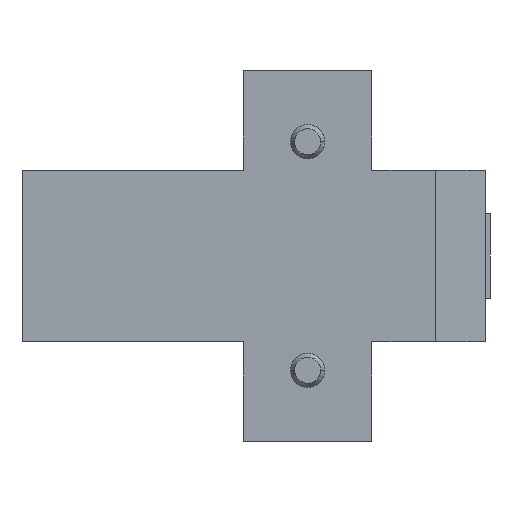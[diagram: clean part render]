
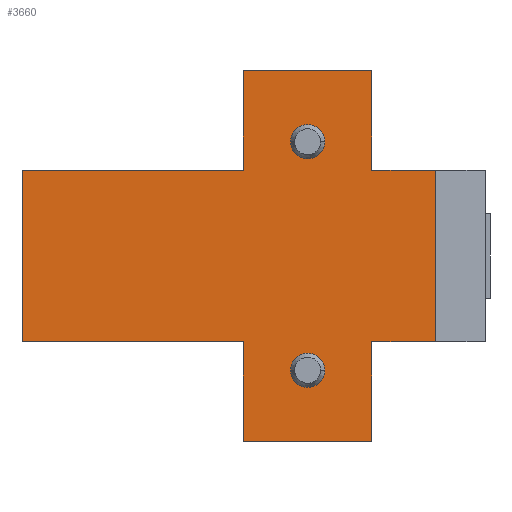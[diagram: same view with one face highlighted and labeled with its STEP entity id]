
A CAD part, left-side view. The second image highlights one B-rep face of the part: STEP entity #3660.
In plain terms, the highlighted planar face has unit normal (-1, 0, 0).
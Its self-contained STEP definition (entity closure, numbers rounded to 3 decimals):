
#523 = EDGE_LOOP ( 'NONE', ( #2964, #2965 ) ) ;
#526 = EDGE_LOOP ( 'NONE', ( #2979, #2980 ) ) ;
#529 = EDGE_LOOP ( 'NONE', ( #2966, #2968, #2969, #2970, #2971, #2972, #2973, #2974, #2975, #2976, #2977, #2978 ) ) ;
#707 = CIRCLE ( 'NONE', #3313, 2.4 ) ;
#714 = VECTOR ( 'NONE', #2281, 1000. ) ;
#715 = LINE ( 'NONE', #2284, #714 ) ;
#716 = VECTOR ( 'NONE', #2276, 1000. ) ;
#717 = LINE ( 'NONE', #2774, #716 ) ;
#719 = VECTOR ( 'NONE', #2777, 1000. ) ;
#721 = VECTOR ( 'NONE', #2775, 1000. ) ;
#722 = VECTOR ( 'NONE', #2306, 1000. ) ;
#723 = LINE ( 'NONE', #2316, #722 ) ;
#724 = VECTOR ( 'NONE', #2376, 1000. ) ;
#725 = LINE ( 'NONE', #2373, #724 ) ;
#726 = VECTOR ( 'NONE', #2366, 1000. ) ;
#727 = LINE ( 'NONE', #2360, #726 ) ;
#728 = CIRCLE ( 'NONE', #3318, 2.4 ) ;
#729 = LINE ( 'NONE', #2324, #721 ) ;
#730 = LINE ( 'NONE', #2298, #719 ) ;
#731 = LINE ( 'NONE', #2352, #733 ) ;
#732 = VECTOR ( 'NONE', #2327, 1000. ) ;
#733 = VECTOR ( 'NONE', #2356, 1000. ) ;
#734 = VECTOR ( 'NONE', #2318, 1000. ) ;
#736 = LINE ( 'NONE', #2455, #734 ) ;
#738 = LINE ( 'NONE', #2405, #732 ) ;
#740 = VECTOR ( 'NONE', #2429, 1000. ) ;
#741 = LINE ( 'NONE', #2453, #740 ) ;
#753 = VECTOR ( 'NONE', #2494, 1000. ) ;
#759 = LINE ( 'NONE', #2749, #753 ) ;
#787 = CIRCLE ( 'NONE', #3154, 2.4 ) ;
#902 = EDGE_CURVE ( 'NONE', #1951, #1952, #787, .T. ) ;
#924 = EDGE_CURVE ( 'NONE', #1985, #1984, #759, .T. ) ;
#931 = EDGE_CURVE ( 'NONE', #1983, #1984, #741, .T. ) ;
#935 = EDGE_CURVE ( 'NONE', #1987, #1982, #736, .T. ) ;
#936 = EDGE_CURVE ( 'NONE', #1982, #1983, #738, .T. ) ;
#937 = EDGE_CURVE ( 'NONE', #1952, #1951, #728, .T. ) ;
#938 = EDGE_CURVE ( 'NONE', #1985, #1986, #731, .T. ) ;
#939 = EDGE_CURVE ( 'NONE', #1988, #1987, #727, .T. ) ;
#940 = EDGE_CURVE ( 'NONE', #1988, #1991, #725, .T. ) ;
#941 = EDGE_CURVE ( 'NONE', #1850, #1991, #723, .T. ) ;
#942 = EDGE_CURVE ( 'NONE', #1847, #1850, #729, .T. ) ;
#943 = EDGE_CURVE ( 'NONE', #1847, #1849, #730, .T. ) ;
#944 = EDGE_CURVE ( 'NONE', #1849, #1989, #717, .T. ) ;
#945 = EDGE_CURVE ( 'NONE', #1989, #1986, #715, .T. ) ;
#947 = EDGE_CURVE ( 'NONE', #1965, #1967, #707, .T. ) ;
#1090 = PLANE ( 'NONE',  #3360 ) ;
#1091 = CARTESIAN_POINT ( 'NONE',  ( 0., -12.007, -12. ) ) ;
#1092 = DIRECTION ( 'NONE',  ( 1., 0., 0. ) ) ;
#1093 = DIRECTION ( 'NONE',  ( 0., -1., 0. ) ) ;
#1491 = DIRECTION ( 'NONE',  ( 0., -1., 0. ) ) ;
#1492 = DIRECTION ( 'NONE',  ( -1., 0., 0. ) ) ;
#1497 = CARTESIAN_POINT ( 'NONE',  ( 0., 0., 16. ) ) ;
#1801 = FACE_OUTER_BOUND ( 'NONE', #529, .T. ) ;
#1847 = VERTEX_POINT ( 'NONE', #2662 ) ;
#1849 = VERTEX_POINT ( 'NONE', #2667 ) ;
#1850 = VERTEX_POINT ( 'NONE', #2666 ) ;
#1951 = VERTEX_POINT ( 'NONE', #2297 ) ;
#1952 = VERTEX_POINT ( 'NONE', #2303 ) ;
#1965 = VERTEX_POINT ( 'NONE', #2314 ) ;
#1967 = VERTEX_POINT ( 'NONE', #2329 ) ;
#1982 = VERTEX_POINT ( 'NONE', #2355 ) ;
#1983 = VERTEX_POINT ( 'NONE', #2354 ) ;
#1984 = VERTEX_POINT ( 'NONE', #2351 ) ;
#1985 = VERTEX_POINT ( 'NONE', #2350 ) ;
#1986 = VERTEX_POINT ( 'NONE', #2364 ) ;
#1987 = VERTEX_POINT ( 'NONE', #2363 ) ;
#1988 = VERTEX_POINT ( 'NONE', #2362 ) ;
#1989 = VERTEX_POINT ( 'NONE', #2359 ) ;
#1991 = VERTEX_POINT ( 'NONE', #2370 ) ;
#2058 = FACE_BOUND ( 'NONE', #523, .T. ) ;
#2062 = FACE_BOUND ( 'NONE', #526, .T. ) ;
#2198 = CIRCLE ( 'NONE', #3305, 2.4 ) ;
#2276 = DIRECTION ( 'NONE',  ( 0., 0., 1. ) ) ;
#2281 = DIRECTION ( 'NONE',  ( 0., 1., 0. ) ) ;
#2284 = CARTESIAN_POINT ( 'NONE',  ( 0., -9., 26. ) ) ;
#2291 = CARTESIAN_POINT ( 'NONE',  ( 0., 0., 16. ) ) ;
#2297 = CARTESIAN_POINT ( 'NONE',  ( 0., 2.4, -16. ) ) ;
#2298 = CARTESIAN_POINT ( 'NONE',  ( 0., -12.007, 12. ) ) ;
#2303 = CARTESIAN_POINT ( 'NONE',  ( 0., -2.4, -16. ) ) ;
#2306 = DIRECTION ( 'NONE',  ( 0., 1., 0. ) ) ;
#2314 = CARTESIAN_POINT ( 'NONE',  ( 0., -2.4, 16. ) ) ;
#2316 = CARTESIAN_POINT ( 'NONE',  ( 0., -12.007, -12. ) ) ;
#2318 = DIRECTION ( 'NONE',  ( 0., 0., 1. ) ) ;
#2324 = CARTESIAN_POINT ( 'NONE',  ( 0., -17.9, 30.452 ) ) ;
#2327 = DIRECTION ( 'NONE',  ( 0., 1., 0. ) ) ;
#2329 = CARTESIAN_POINT ( 'NONE',  ( 0., 2.4, 16. ) ) ;
#2330 = CARTESIAN_POINT ( 'NONE',  ( 0., 0., -16. ) ) ;
#2346 = DIRECTION ( 'NONE',  ( -1., 0., 0. ) ) ;
#2347 = DIRECTION ( 'NONE',  ( 0., -1., 0. ) ) ;
#2350 = CARTESIAN_POINT ( 'NONE',  ( 0., 9., 12. ) ) ;
#2351 = CARTESIAN_POINT ( 'NONE',  ( 0., 40., 12. ) ) ;
#2352 = CARTESIAN_POINT ( 'NONE',  ( 0., 9., -26. ) ) ;
#2354 = CARTESIAN_POINT ( 'NONE',  ( 0., 40., -12. ) ) ;
#2355 = CARTESIAN_POINT ( 'NONE',  ( 0., 9., -12. ) ) ;
#2356 = DIRECTION ( 'NONE',  ( 0., 0., 1. ) ) ;
#2359 = CARTESIAN_POINT ( 'NONE',  ( 0., -9., 26. ) ) ;
#2360 = CARTESIAN_POINT ( 'NONE',  ( 0., -9., -26. ) ) ;
#2362 = CARTESIAN_POINT ( 'NONE',  ( 0., -9., -26. ) ) ;
#2363 = CARTESIAN_POINT ( 'NONE',  ( 0., 9., -26. ) ) ;
#2364 = CARTESIAN_POINT ( 'NONE',  ( 0., 9., 26. ) ) ;
#2366 = DIRECTION ( 'NONE',  ( 0., 1., 0. ) ) ;
#2370 = CARTESIAN_POINT ( 'NONE',  ( 0., -9., -12. ) ) ;
#2373 = CARTESIAN_POINT ( 'NONE',  ( 0., -9., -26. ) ) ;
#2376 = DIRECTION ( 'NONE',  ( 0., 0., 1. ) ) ;
#2390 = CARTESIAN_POINT ( 'NONE',  ( 0., 0., -16. ) ) ;
#2405 = CARTESIAN_POINT ( 'NONE',  ( 0., -12.007, -12. ) ) ;
#2429 = DIRECTION ( 'NONE',  ( 0., 0., 1. ) ) ;
#2453 = CARTESIAN_POINT ( 'NONE',  ( 0., 40., -12. ) ) ;
#2455 = CARTESIAN_POINT ( 'NONE',  ( 0., 9., -26. ) ) ;
#2494 = DIRECTION ( 'NONE',  ( 0., 1., 0. ) ) ;
#2622 = DIRECTION ( 'NONE',  ( 0., -1., 0. ) ) ;
#2662 = CARTESIAN_POINT ( 'NONE',  ( 0., -17.9, 12. ) ) ;
#2666 = CARTESIAN_POINT ( 'NONE',  ( 0., -17.9, -12. ) ) ;
#2667 = CARTESIAN_POINT ( 'NONE',  ( 0., -9., 12. ) ) ;
#2749 = CARTESIAN_POINT ( 'NONE',  ( 0., -12.007, 12. ) ) ;
#2774 = CARTESIAN_POINT ( 'NONE',  ( 0., -9., -26. ) ) ;
#2775 = DIRECTION ( 'NONE',  ( 0., 0., -1. ) ) ;
#2777 = DIRECTION ( 'NONE',  ( 0., 1., 0. ) ) ;
#2781 = DIRECTION ( 'NONE',  ( -1., 0., 0. ) ) ;
#2782 = DIRECTION ( 'NONE',  ( 0., -1., 0. ) ) ;
#2785 = DIRECTION ( 'NONE',  ( -1., 0., 0. ) ) ;
#2964 = ORIENTED_EDGE ( 'NONE', *, *, #937, .F. ) ;
#2965 = ORIENTED_EDGE ( 'NONE', *, *, #902, .F. ) ;
#2966 = ORIENTED_EDGE ( 'NONE', *, *, #938, .F. ) ;
#2968 = ORIENTED_EDGE ( 'NONE', *, *, #924, .T. ) ;
#2969 = ORIENTED_EDGE ( 'NONE', *, *, #931, .F. ) ;
#2970 = ORIENTED_EDGE ( 'NONE', *, *, #936, .F. ) ;
#2971 = ORIENTED_EDGE ( 'NONE', *, *, #935, .F. ) ;
#2972 = ORIENTED_EDGE ( 'NONE', *, *, #939, .F. ) ;
#2973 = ORIENTED_EDGE ( 'NONE', *, *, #940, .T. ) ;
#2974 = ORIENTED_EDGE ( 'NONE', *, *, #941, .F. ) ;
#2975 = ORIENTED_EDGE ( 'NONE', *, *, #942, .F. ) ;
#2976 = ORIENTED_EDGE ( 'NONE', *, *, #943, .T. ) ;
#2977 = ORIENTED_EDGE ( 'NONE', *, *, #944, .T. ) ;
#2978 = ORIENTED_EDGE ( 'NONE', *, *, #945, .T. ) ;
#2979 = ORIENTED_EDGE ( 'NONE', *, *, #947, .F. ) ;
#2980 = ORIENTED_EDGE ( 'NONE', *, *, #3236, .F. ) ;
#3154 = AXIS2_PLACEMENT_3D ( 'NONE', #2390, #2785, #2622 ) ;
#3236 = EDGE_CURVE ( 'NONE', #1967, #1965, #2198, .T. ) ;
#3305 = AXIS2_PLACEMENT_3D ( 'NONE', #1497, #1492, #1491 ) ;
#3313 = AXIS2_PLACEMENT_3D ( 'NONE', #2291, #2781, #2782 ) ;
#3318 = AXIS2_PLACEMENT_3D ( 'NONE', #2330, #2346, #2347 ) ;
#3360 = AXIS2_PLACEMENT_3D ( 'NONE', #1091, #1092, #1093 ) ;
#3660 = ADVANCED_FACE ( 'NONE', ( #2058, #1801, #2062 ), #1090, .F. ) ;
